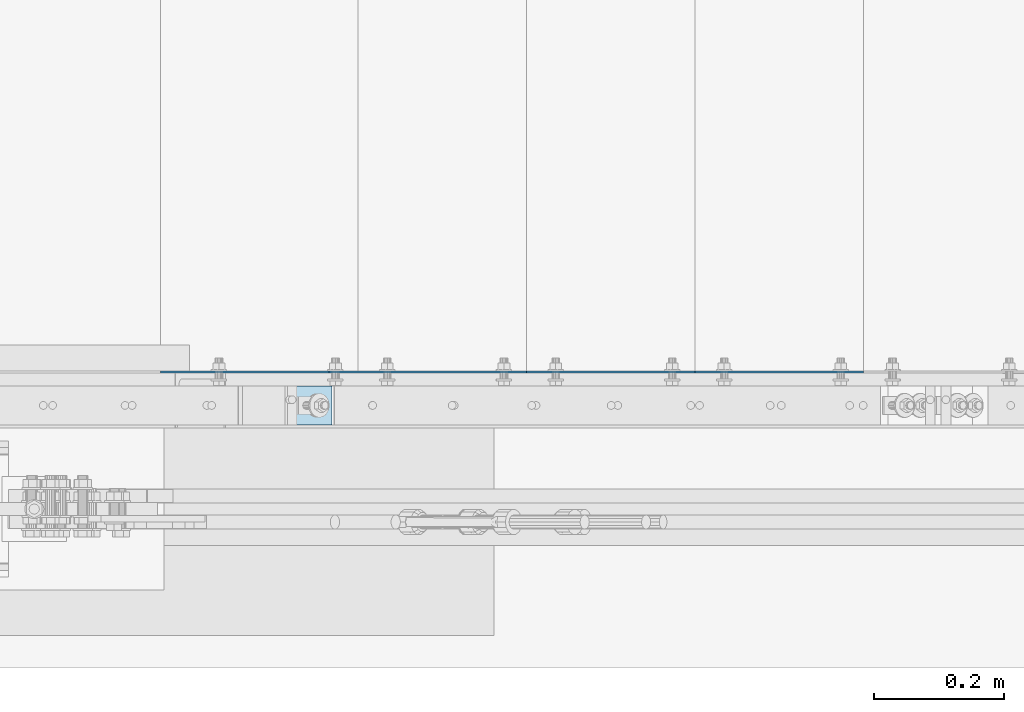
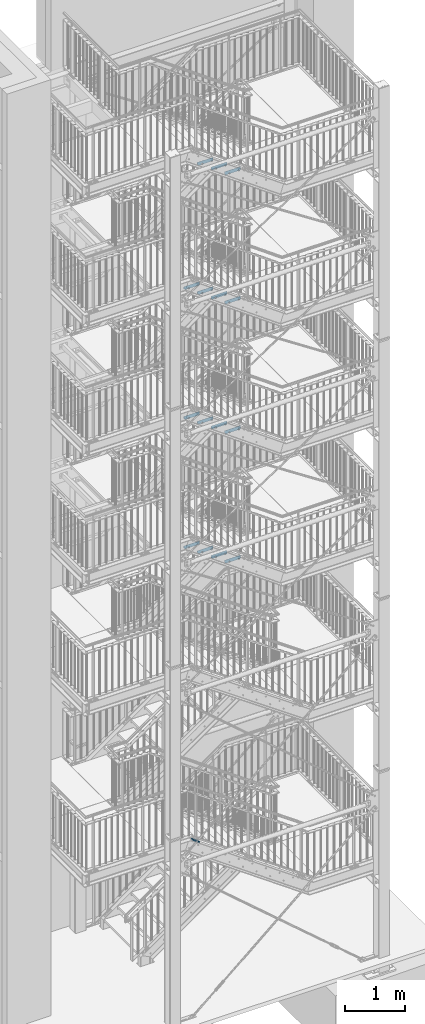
# One storey, part 169 of 831: 16 plates, 32 openings.
"""IFC2X3 building model written with IfcOpenShell, lengths in millimetres."""

from ifc_helpers import new_model, entity, si_unit, converted_unit, point, frame, frame_2d, origin, origin_with_axes, origin_2d_with_axis, place, context, project, spatial, polyline, circle_curve, line_curve, trimmed, segment, composite_curve, circle, outline, extrude, material, layer, layer_set, element, save


model = new_model("IFC2X3")

# Units and contexts
model_context = context("Model", 3, precision=1e-09, world=origin_with_axes())
ifc_project = project(units=[si_unit("LENGTHUNIT", "METRE", prefix="MILLI"), si_unit("AREAUNIT", "SQUARE_METRE"), si_unit("VOLUMEUNIT", "CUBIC_METRE"), converted_unit("PLANEANGLEUNIT", "DEGREE", entity("IfcPlaneAngleMeasure", 0.01745329), si_unit("PLANEANGLEUNIT", "RADIAN"), dimensions=[0, 0, 0, 0, 0, 0, 0])], contexts=[model_context])

# Site, building, storey
site_placement = place(None, origin_with_axes())
site = spatial("IfcSite", under=ifc_project, at=site_placement, Name="Site", CompositionType="ELEMENT")
building_placement = place(site_placement, origin_with_axes())
building = spatial("IfcBuilding", under=site, at=building_placement, Name="Struktur 1", CompositionType="ELEMENT")
storey_placement = place(building_placement, origin_with_axes())
storey = spatial("IfcBuildingStorey", under=building, at=storey_placement, Name="Default Storey", CompositionType="ELEMENT", Elevation=0.0)

# Plate, openings
ifc_material = material(Name="S235JR")
ifc_layer_1 = layer(ifc_material, 20.0)
ifc_layer_set_1 = layer_set([ifc_layer_1], Name="S235JR")
plate_1_placement = place(None, frame((5314.268058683, 4496.736971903, 3831.785480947), z_axis=(0.579973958, 0.0, 0.814635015), x_axis=(0.814635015, 0.0, -0.579973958)))
plate_1 = element("IfcPlate", 1, at=plate_1_placement, inside=storey, material=ifc_layer_set_1, Name="Plate#510", ObjectType="Plate#510", context=model_context, shape_type="SweptSolid", body=[
    extrude(outline(polyline([(0.0, 0.0), (160.0, 0.0), (160.0, 60.0), (0.0, 60.0), (0.0, 0.0)])), origin_with_axes(), (0.0, 0.0, 1.0), 20.0),
])
opening_1_placement = place(plate_1_placement, frame((38.0, 37.001, 20.5), z_axis=(0.0, 0.0, 1.0), x_axis=(-1.0, 0.0, 0.0)))
element("IfcOpeningElement", 2, at=opening_1_placement, cuts=plate_1, ObjectType="Opening", context=model_context, shape_type="SweptSolid", body=[
    extrude(outline(composite_curve([segment(trimmed(line_curve((0.0, 0.0), (1.0, 0.0), 16.0), [point((0.0, 0.0))], [point((16.0, 0.0))], True, "CARTESIAN"), True, "CONTINUOUS"), segment(trimmed(circle_curve(frame_2d((16.0, 7.001), x_axis=(1.0, 0.0)), 7.001), [point((16.0, 0.0))], [point((16.0, 14.002))], True, "CARTESIAN"), True, "CONTINUOUS"), segment(trimmed(line_curve((16.0, 14.002), (-1.0, 0.0), 16.0), [point((16.0, 14.002))], [point((0.0, 14.002))], True, "CARTESIAN"), True, "CONTINUOUS"), segment(trimmed(circle_curve(frame_2d((0.0, 7.001), x_axis=(1.0, 0.0)), 7.001), [point((0.0, 14.002))], [point((0.0, 0.0))], True, "CARTESIAN"), True, "CONTINUOUS")], self_intersect=False)), origin(), (0.0, 0.0, -1.0), 21.0),
])
opening_2_placement = place(plate_1_placement, frame((138.0, 37.001, 20.5), z_axis=(0.0, 0.0, 1.0), x_axis=(-1.0, 0.0, 0.0)))
element("IfcOpeningElement", 3, at=opening_2_placement, cuts=plate_1, ObjectType="Opening", context=model_context, shape_type="SweptSolid", body=[
    extrude(outline(composite_curve([segment(trimmed(line_curve((0.0, 0.0), (1.0, 0.0), 16.0), [point((0.0, 0.0))], [point((16.0, 0.0))], True, "CARTESIAN"), True, "CONTINUOUS"), segment(trimmed(circle_curve(frame_2d((16.0, 7.001), x_axis=(1.0, 0.0)), 7.001), [point((16.0, 0.0))], [point((16.0, 14.002))], True, "CARTESIAN"), True, "CONTINUOUS"), segment(trimmed(line_curve((16.0, 14.002), (-1.0, 0.0), 16.0), [point((16.0, 14.002))], [point((0.0, 14.002))], True, "CARTESIAN"), True, "CONTINUOUS"), segment(trimmed(circle_curve(frame_2d((0.0, 7.001), x_axis=(1.0, 0.0)), 7.001), [point((0.0, 14.002))], [point((0.0, 0.0))], True, "CARTESIAN"), True, "CONTINUOUS")], self_intersect=False)), origin(), (0.0, 0.0, -1.0), 21.0),
])

ifc_layer_2 = layer(ifc_material, 3.0)
ifc_layer_set_2 = layer_set([ifc_layer_2], Name="S235JR")
plate_2_placement = place(None, frame((6276.713402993, 4576.736971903, 9240.0), z_axis=(0.0, 1.0, 0.0), x_axis=(0.0, 0.0, -1.0)))
plate_2 = element("IfcPlate", 4, at=plate_2_placement, inside=storey, material=ifc_layer_set_2, Name="Grate_Step#16", ObjectType="Grate_Step#16", context=model_context, shape_type="SweptSolid", body=[
    extrude(outline(polyline([(0.0, 0.0), (70.0, 0.0), (70.0, 275.0), (40.0, 305.0), (0.0, 305.0), (0.0, 0.0)])), origin_with_axes(), (0.0, 0.0, 1.0), 3.0),
])
opening_3_placement = place(plate_2_placement, frame((55.0, 35.0, 3.5), z_axis=(0.0, 0.0, -1.0), x_axis=(0.0, 1.0, 0.0)))
element("IfcOpeningElement", 5, at=opening_3_placement, cuts=plate_2, ObjectType="Opening", context=model_context, shape_type="SweptSolid", body=[
    extrude(circle(Radius=7.001, at=origin_2d_with_axis()), origin(), (0.0, 0.0, 1.0), 4.0),
])
opening_4_placement = place(plate_2_placement, frame((55.0, 215.0, 3.5), z_axis=(0.0, 0.0, -1.0), x_axis=(0.0, 1.0, 0.0)))
element("IfcOpeningElement", 6, at=opening_4_placement, cuts=plate_2, ObjectType="Opening", context=model_context, shape_type="SweptSolid", body=[
    extrude(outline(composite_curve([segment(trimmed(line_curve((-9.5, -7.001), (1.0, 0.0), 19.0), [point((-9.5, -7.001))], [point((9.5, -7.001))], True, "CARTESIAN"), True, "CONTINUOUS"), segment(trimmed(circle_curve(frame_2d((9.5, 0.0), x_axis=(1.0, 0.0)), 7.001), [point((9.5, -7.001))], [point((9.5, 7.001))], True, "CARTESIAN"), True, "CONTINUOUS"), segment(trimmed(line_curve((9.5, 7.001), (-1.0, 0.0), 19.0), [point((9.5, 7.001))], [point((-9.5, 7.001))], True, "CARTESIAN"), True, "CONTINUOUS"), segment(trimmed(circle_curve(frame_2d((-9.5, 0.0), x_axis=(1.0, 0.0)), 7.001), [point((-9.5, 7.001))], [point((-9.5, -7.001))], True, "CARTESIAN"), True, "CONTINUOUS")], self_intersect=False)), origin(), (0.0, 0.0, 1.0), 4.0),
])

plate_3_placement = place(None, frame((6016.713402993, 4576.736971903, 9428.0), z_axis=(0.0, 1.0, 0.0), x_axis=(0.0, 0.0, -1.0)))
plate_3 = element("IfcPlate", 7, at=plate_3_placement, inside=storey, material=ifc_layer_set_2, Name="Grate_Step#23", ObjectType="Grate_Step#23", context=model_context, shape_type="SweptSolid", body=[
    extrude(outline(polyline([(0.0, 0.0), (70.0, 0.0), (70.0, 275.0), (40.0, 305.0), (0.0, 305.0), (0.0, 0.0)])), origin_with_axes(), (0.0, 0.0, 1.0), 3.0),
])
opening_5_placement = place(plate_3_placement, frame((55.0, 215.0, 3.5), z_axis=(0.0, 0.0, -1.0), x_axis=(0.0, 1.0, 0.0)))
element("IfcOpeningElement", 8, at=opening_5_placement, cuts=plate_3, ObjectType="Opening", context=model_context, shape_type="SweptSolid", body=[
    extrude(outline(composite_curve([segment(trimmed(line_curve((-9.5, -7.001), (1.0, 0.0), 19.0), [point((-9.5, -7.001))], [point((9.5, -7.001))], True, "CARTESIAN"), True, "CONTINUOUS"), segment(trimmed(circle_curve(frame_2d((9.5, 0.0), x_axis=(1.0, 0.0)), 7.001), [point((9.5, -7.001))], [point((9.5, 7.001))], True, "CARTESIAN"), True, "CONTINUOUS"), segment(trimmed(line_curve((9.5, 7.001), (-1.0, 0.0), 19.0), [point((9.5, 7.001))], [point((-9.5, 7.001))], True, "CARTESIAN"), True, "CONTINUOUS"), segment(trimmed(circle_curve(frame_2d((-9.5, 0.0), x_axis=(1.0, 0.0)), 7.001), [point((-9.5, 7.001))], [point((-9.5, -7.001))], True, "CARTESIAN"), True, "CONTINUOUS")], self_intersect=False)), origin(), (0.0, 0.0, 1.0), 4.0),
])
opening_6_placement = place(plate_3_placement, frame((55.0, 35.0, 3.5), z_axis=(0.0, 0.0, -1.0), x_axis=(0.0, 1.0, 0.0)))
element("IfcOpeningElement", 9, at=opening_6_placement, cuts=plate_3, ObjectType="Opening", context=model_context, shape_type="SweptSolid", body=[
    extrude(circle(Radius=7.001, at=origin_2d_with_axis()), origin(), (0.0, 0.0, 1.0), 4.0),
])

plate_4_placement = place(None, frame((5756.713402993, 4576.736971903, 9616.0), z_axis=(0.0, 1.0, 0.0), x_axis=(0.0, 0.0, -1.0)))
plate_4 = element("IfcPlate", 10, at=plate_4_placement, inside=storey, material=ifc_layer_set_2, Name="Grate_Step#30", ObjectType="Grate_Step#30", context=model_context, shape_type="SweptSolid", body=[
    extrude(outline(polyline([(0.0, 0.0), (70.0, 0.0), (70.0, 275.0), (40.0, 305.0), (0.0, 305.0), (0.0, 0.0)])), origin_with_axes(), (0.0, 0.0, 1.0), 3.0),
])
opening_7_placement = place(plate_4_placement, frame((55.0, 35.0, 3.5), z_axis=(0.0, 0.0, -1.0), x_axis=(0.0, 1.0, 0.0)))
element("IfcOpeningElement", 11, at=opening_7_placement, cuts=plate_4, ObjectType="Opening", context=model_context, shape_type="SweptSolid", body=[
    extrude(circle(Radius=7.001, at=origin_2d_with_axis()), origin(), (0.0, 0.0, 1.0), 4.0),
])
opening_8_placement = place(plate_4_placement, frame((55.0, 215.0, 3.5), z_axis=(0.0, 0.0, -1.0), x_axis=(0.0, 1.0, 0.0)))
element("IfcOpeningElement", 12, at=opening_8_placement, cuts=plate_4, ObjectType="Opening", context=model_context, shape_type="SweptSolid", body=[
    extrude(outline(composite_curve([segment(trimmed(line_curve((-9.5, -7.001), (1.0, 0.0), 19.0), [point((-9.5, -7.001))], [point((9.5, -7.001))], True, "CARTESIAN"), True, "CONTINUOUS"), segment(trimmed(circle_curve(frame_2d((9.5, 0.0), x_axis=(1.0, 0.0)), 7.001), [point((9.5, -7.001))], [point((9.5, 7.001))], True, "CARTESIAN"), True, "CONTINUOUS"), segment(trimmed(line_curve((9.5, 7.001), (-1.0, 0.0), 19.0), [point((9.5, 7.001))], [point((-9.5, 7.001))], True, "CARTESIAN"), True, "CONTINUOUS"), segment(trimmed(circle_curve(frame_2d((-9.5, 0.0), x_axis=(1.0, 0.0)), 7.001), [point((-9.5, 7.001))], [point((-9.5, -7.001))], True, "CARTESIAN"), True, "CONTINUOUS")], self_intersect=False)), origin(), (0.0, 0.0, 1.0), 4.0),
])

plate_5_placement = place(None, frame((5496.713402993, 4576.736971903, 9804.0), z_axis=(0.0, 1.0, 0.0), x_axis=(0.0, 0.0, -1.0)))
plate_5 = element("IfcPlate", 13, at=plate_5_placement, inside=storey, material=ifc_layer_set_2, Name="Grate_Step#37", ObjectType="Grate_Step#37", context=model_context, shape_type="SweptSolid", body=[
    extrude(outline(polyline([(0.0, 0.0), (70.0, 0.0), (70.0, 275.0), (40.0, 305.0), (0.0, 305.0), (0.0, 0.0)])), origin_with_axes(), (0.0, 0.0, 1.0), 3.0),
])
opening_9_placement = place(plate_5_placement, frame((55.0, 35.0, 3.5), z_axis=(0.0, 0.0, -1.0), x_axis=(0.0, 1.0, 0.0)))
element("IfcOpeningElement", 14, at=opening_9_placement, cuts=plate_5, ObjectType="Opening", context=model_context, shape_type="SweptSolid", body=[
    extrude(circle(Radius=7.001, at=origin_2d_with_axis()), origin(), (0.0, 0.0, 1.0), 4.0),
])
opening_10_placement = place(plate_5_placement, frame((55.0, 215.0, 3.5), z_axis=(0.0, 0.0, -1.0), x_axis=(0.0, 1.0, 0.0)))
element("IfcOpeningElement", 15, at=opening_10_placement, cuts=plate_5, ObjectType="Opening", context=model_context, shape_type="SweptSolid", body=[
    extrude(outline(composite_curve([segment(trimmed(line_curve((-9.5, -7.001), (1.0, 0.0), 19.0), [point((-9.5, -7.001))], [point((9.5, -7.001))], True, "CARTESIAN"), True, "CONTINUOUS"), segment(trimmed(circle_curve(frame_2d((9.5, 0.0), x_axis=(1.0, 0.0)), 7.001), [point((9.5, -7.001))], [point((9.5, 7.001))], True, "CARTESIAN"), True, "CONTINUOUS"), segment(trimmed(line_curve((9.5, 7.001), (-1.0, 0.0), 19.0), [point((9.5, 7.001))], [point((-9.5, 7.001))], True, "CARTESIAN"), True, "CONTINUOUS"), segment(trimmed(circle_curve(frame_2d((-9.5, 0.0), x_axis=(1.0, 0.0)), 7.001), [point((-9.5, 7.001))], [point((-9.5, -7.001))], True, "CARTESIAN"), True, "CONTINUOUS")], self_intersect=False)), origin(), (0.0, 0.0, 1.0), 4.0),
])

plate_6_placement = place(None, frame((6276.713402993, 4576.736971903, 11868.4285716), z_axis=(0.0, 1.0, 0.0), x_axis=(0.0, 0.0, -1.0)))
plate_6 = element("IfcPlate", 16, at=plate_6_placement, inside=storey, material=ifc_layer_set_2, Name="Grate_Step#16", ObjectType="Grate_Step#16", context=model_context, shape_type="SweptSolid", body=[
    extrude(outline(polyline([(0.0, 0.0), (70.0, 0.0), (70.0, 275.0), (40.0, 305.0), (0.0, 305.0), (0.0, 0.0)])), origin_with_axes(), (0.0, 0.0, 1.0), 3.0),
])
opening_11_placement = place(plate_6_placement, frame((55.0, 35.0, 3.5), z_axis=(0.0, 0.0, -1.0), x_axis=(0.0, 1.0, 0.0)))
element("IfcOpeningElement", 17, at=opening_11_placement, cuts=plate_6, ObjectType="Opening", context=model_context, shape_type="SweptSolid", body=[
    extrude(circle(Radius=7.001, at=origin_2d_with_axis()), origin(), (0.0, 0.0, 1.0), 4.0),
])
opening_12_placement = place(plate_6_placement, frame((55.0, 215.0, 3.5), z_axis=(0.0, 0.0, -1.0), x_axis=(0.0, 1.0, 0.0)))
element("IfcOpeningElement", 18, at=opening_12_placement, cuts=plate_6, ObjectType="Opening", context=model_context, shape_type="SweptSolid", body=[
    extrude(outline(composite_curve([segment(trimmed(line_curve((-9.5, -7.001), (1.0, 0.0), 19.0), [point((-9.5, -7.001))], [point((9.5, -7.001))], True, "CARTESIAN"), True, "CONTINUOUS"), segment(trimmed(circle_curve(frame_2d((9.5, 0.0), x_axis=(1.0, 0.0)), 7.001), [point((9.5, -7.001))], [point((9.5, 7.001))], True, "CARTESIAN"), True, "CONTINUOUS"), segment(trimmed(line_curve((9.5, 7.001), (-1.0, 0.0), 19.0), [point((9.5, 7.001))], [point((-9.5, 7.001))], True, "CARTESIAN"), True, "CONTINUOUS"), segment(trimmed(circle_curve(frame_2d((-9.5, 0.0), x_axis=(1.0, 0.0)), 7.001), [point((-9.5, 7.001))], [point((-9.5, -7.001))], True, "CARTESIAN"), True, "CONTINUOUS")], self_intersect=False)), origin(), (0.0, 0.0, 1.0), 4.0),
])

plate_7_placement = place(None, frame((6016.713402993, 4576.736971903, 12056.0714287), z_axis=(0.0, 1.0, 0.0), x_axis=(0.0, 0.0, -1.0)))
plate_7 = element("IfcPlate", 19, at=plate_7_placement, inside=storey, material=ifc_layer_set_2, Name="Grate_Step#23", ObjectType="Grate_Step#23", context=model_context, shape_type="SweptSolid", body=[
    extrude(outline(polyline([(0.0, 0.0), (70.0, 0.0), (70.0, 275.0), (40.0, 305.0), (0.0, 305.0), (0.0, 0.0)])), origin_with_axes(), (0.0, 0.0, 1.0), 3.0),
])
opening_13_placement = place(plate_7_placement, frame((55.0, 215.0, 3.5), z_axis=(0.0, 0.0, -1.0), x_axis=(0.0, 1.0, 0.0)))
element("IfcOpeningElement", 20, at=opening_13_placement, cuts=plate_7, ObjectType="Opening", context=model_context, shape_type="SweptSolid", body=[
    extrude(outline(composite_curve([segment(trimmed(line_curve((-9.5, -7.001), (1.0, 0.0), 19.0), [point((-9.5, -7.001))], [point((9.5, -7.001))], True, "CARTESIAN"), True, "CONTINUOUS"), segment(trimmed(circle_curve(frame_2d((9.5, 0.0), x_axis=(1.0, 0.0)), 7.001), [point((9.5, -7.001))], [point((9.5, 7.001))], True, "CARTESIAN"), True, "CONTINUOUS"), segment(trimmed(line_curve((9.5, 7.001), (-1.0, 0.0), 19.0), [point((9.5, 7.001))], [point((-9.5, 7.001))], True, "CARTESIAN"), True, "CONTINUOUS"), segment(trimmed(circle_curve(frame_2d((-9.5, 0.0), x_axis=(1.0, 0.0)), 7.001), [point((-9.5, 7.001))], [point((-9.5, -7.001))], True, "CARTESIAN"), True, "CONTINUOUS")], self_intersect=False)), origin(), (0.0, 0.0, 1.0), 4.0),
])
opening_14_placement = place(plate_7_placement, frame((55.0, 35.0, 3.5), z_axis=(0.0, 0.0, -1.0), x_axis=(0.0, 1.0, 0.0)))
element("IfcOpeningElement", 21, at=opening_14_placement, cuts=plate_7, ObjectType="Opening", context=model_context, shape_type="SweptSolid", body=[
    extrude(circle(Radius=7.001, at=origin_2d_with_axis()), origin(), (0.0, 0.0, 1.0), 4.0),
])

plate_8_placement = place(None, frame((5756.713402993, 4576.736971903, 12243.7142858), z_axis=(0.0, 1.0, 0.0), x_axis=(0.0, 0.0, -1.0)))
plate_8 = element("IfcPlate", 22, at=plate_8_placement, inside=storey, material=ifc_layer_set_2, Name="Grate_Step#30", ObjectType="Grate_Step#30", context=model_context, shape_type="SweptSolid", body=[
    extrude(outline(polyline([(0.0, 0.0), (70.0, 0.0), (70.0, 275.0), (40.0, 305.0), (0.0, 305.0), (0.0, 0.0)])), origin_with_axes(), (0.0, 0.0, 1.0), 3.0),
])
opening_15_placement = place(plate_8_placement, frame((55.0, 35.0, 3.5), z_axis=(0.0, 0.0, -1.0), x_axis=(0.0, 1.0, 0.0)))
element("IfcOpeningElement", 23, at=opening_15_placement, cuts=plate_8, ObjectType="Opening", context=model_context, shape_type="SweptSolid", body=[
    extrude(circle(Radius=7.001, at=origin_2d_with_axis()), origin(), (0.0, 0.0, 1.0), 4.0),
])
opening_16_placement = place(plate_8_placement, frame((55.0, 215.0, 3.5), z_axis=(0.0, 0.0, -1.0), x_axis=(0.0, 1.0, 0.0)))
element("IfcOpeningElement", 24, at=opening_16_placement, cuts=plate_8, ObjectType="Opening", context=model_context, shape_type="SweptSolid", body=[
    extrude(outline(composite_curve([segment(trimmed(line_curve((-9.5, -7.001), (1.0, 0.0), 19.0), [point((-9.5, -7.001))], [point((9.5, -7.001))], True, "CARTESIAN"), True, "CONTINUOUS"), segment(trimmed(circle_curve(frame_2d((9.5, 0.0), x_axis=(1.0, 0.0)), 7.001), [point((9.5, -7.001))], [point((9.5, 7.001))], True, "CARTESIAN"), True, "CONTINUOUS"), segment(trimmed(line_curve((9.5, 7.001), (-1.0, 0.0), 19.0), [point((9.5, 7.001))], [point((-9.5, 7.001))], True, "CARTESIAN"), True, "CONTINUOUS"), segment(trimmed(circle_curve(frame_2d((-9.5, 0.0), x_axis=(1.0, 0.0)), 7.001), [point((-9.5, 7.001))], [point((-9.5, -7.001))], True, "CARTESIAN"), True, "CONTINUOUS")], self_intersect=False)), origin(), (0.0, 0.0, 1.0), 4.0),
])

plate_9_placement = place(None, frame((5496.713402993, 4576.736971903, 12431.3571429), z_axis=(0.0, 1.0, 0.0), x_axis=(0.0, 0.0, -1.0)))
plate_9 = element("IfcPlate", 25, at=plate_9_placement, inside=storey, material=ifc_layer_set_2, Name="Grate_Step#37", ObjectType="Grate_Step#37", context=model_context, shape_type="SweptSolid", body=[
    extrude(outline(polyline([(0.0, 0.0), (70.0, 0.0), (70.0, 275.0), (40.0, 305.0), (0.0, 305.0), (0.0, 0.0)])), origin_with_axes(), (0.0, 0.0, 1.0), 3.0),
])
opening_17_placement = place(plate_9_placement, frame((55.0, 35.0, 3.5), z_axis=(0.0, 0.0, -1.0), x_axis=(0.0, 1.0, 0.0)))
element("IfcOpeningElement", 26, at=opening_17_placement, cuts=plate_9, ObjectType="Opening", context=model_context, shape_type="SweptSolid", body=[
    extrude(circle(Radius=7.001, at=origin_2d_with_axis()), origin(), (0.0, 0.0, 1.0), 4.0),
])
opening_18_placement = place(plate_9_placement, frame((55.0, 215.0, 3.5), z_axis=(0.0, 0.0, -1.0), x_axis=(0.0, 1.0, 0.0)))
element("IfcOpeningElement", 27, at=opening_18_placement, cuts=plate_9, ObjectType="Opening", context=model_context, shape_type="SweptSolid", body=[
    extrude(outline(composite_curve([segment(trimmed(line_curve((-9.5, -7.001), (1.0, 0.0), 19.0), [point((-9.5, -7.001))], [point((9.5, -7.001))], True, "CARTESIAN"), True, "CONTINUOUS"), segment(trimmed(circle_curve(frame_2d((9.5, 0.0), x_axis=(1.0, 0.0)), 7.001), [point((9.5, -7.001))], [point((9.5, 7.001))], True, "CARTESIAN"), True, "CONTINUOUS"), segment(trimmed(line_curve((9.5, 7.001), (-1.0, 0.0), 19.0), [point((9.5, 7.001))], [point((-9.5, 7.001))], True, "CARTESIAN"), True, "CONTINUOUS"), segment(trimmed(circle_curve(frame_2d((-9.5, 0.0), x_axis=(1.0, 0.0)), 7.001), [point((-9.5, 7.001))], [point((-9.5, -7.001))], True, "CARTESIAN"), True, "CONTINUOUS")], self_intersect=False)), origin(), (0.0, 0.0, 1.0), 4.0),
])

plate_10_placement = place(None, frame((6276.713402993, 4576.736971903, 14501.1428572), z_axis=(0.0, 1.0, 0.0), x_axis=(0.0, 0.0, -1.0)))
plate_10 = element("IfcPlate", 28, at=plate_10_placement, inside=storey, material=ifc_layer_set_2, Name="Grate_Step#16", ObjectType="Grate_Step#16", context=model_context, shape_type="SweptSolid", body=[
    extrude(outline(polyline([(0.0, 0.0), (70.0, 0.0), (70.0, 275.0), (40.0, 305.0), (0.0, 305.0), (0.0, 0.0)])), origin_with_axes(), (0.0, 0.0, 1.0), 3.0),
])
opening_19_placement = place(plate_10_placement, frame((55.0, 215.0, 3.5), z_axis=(0.0, 0.0, -1.0), x_axis=(0.0, 1.0, 0.0)))
element("IfcOpeningElement", 29, at=opening_19_placement, cuts=plate_10, ObjectType="Opening", context=model_context, shape_type="SweptSolid", body=[
    extrude(outline(composite_curve([segment(trimmed(line_curve((-9.5, -7.001), (1.0, 0.0), 19.0), [point((-9.5, -7.001))], [point((9.5, -7.001))], True, "CARTESIAN"), True, "CONTINUOUS"), segment(trimmed(circle_curve(frame_2d((9.5, 0.0), x_axis=(1.0, 0.0)), 7.001), [point((9.5, -7.001))], [point((9.5, 7.001))], True, "CARTESIAN"), True, "CONTINUOUS"), segment(trimmed(line_curve((9.5, 7.001), (-1.0, 0.0), 19.0), [point((9.5, 7.001))], [point((-9.5, 7.001))], True, "CARTESIAN"), True, "CONTINUOUS"), segment(trimmed(circle_curve(frame_2d((-9.5, 0.0), x_axis=(1.0, 0.0)), 7.001), [point((-9.5, 7.001))], [point((-9.5, -7.001))], True, "CARTESIAN"), True, "CONTINUOUS")], self_intersect=False)), origin(), (0.0, 0.0, 1.0), 4.0),
])
opening_20_placement = place(plate_10_placement, frame((55.0, 35.0, 3.5), z_axis=(0.0, 0.0, -1.0), x_axis=(0.0, 1.0, 0.0)))
element("IfcOpeningElement", 30, at=opening_20_placement, cuts=plate_10, ObjectType="Opening", context=model_context, shape_type="SweptSolid", body=[
    extrude(circle(Radius=7.001, at=origin_2d_with_axis()), origin(), (0.0, 0.0, 1.0), 4.0),
])

plate_11_placement = place(None, frame((6016.713402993, 4576.736971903, 14689.3571429), z_axis=(0.0, 1.0, 0.0), x_axis=(0.0, 0.0, -1.0)))
plate_11 = element("IfcPlate", 31, at=plate_11_placement, inside=storey, material=ifc_layer_set_2, Name="Grate_Step#23", ObjectType="Grate_Step#23", context=model_context, shape_type="SweptSolid", body=[
    extrude(outline(polyline([(0.0, 0.0), (70.0, 0.0), (70.0, 275.0), (40.0, 305.0), (0.0, 305.0), (0.0, 0.0)])), origin_with_axes(), (0.0, 0.0, 1.0), 3.0),
])
opening_21_placement = place(plate_11_placement, frame((55.0, 35.0, 3.5), z_axis=(0.0, 0.0, -1.0), x_axis=(0.0, 1.0, 0.0)))
element("IfcOpeningElement", 32, at=opening_21_placement, cuts=plate_11, ObjectType="Opening", context=model_context, shape_type="SweptSolid", body=[
    extrude(circle(Radius=7.001, at=origin_2d_with_axis()), origin(), (0.0, 0.0, 1.0), 4.0),
])
opening_22_placement = place(plate_11_placement, frame((55.0, 215.0, 3.5), z_axis=(0.0, 0.0, -1.0), x_axis=(0.0, 1.0, 0.0)))
element("IfcOpeningElement", 33, at=opening_22_placement, cuts=plate_11, ObjectType="Opening", context=model_context, shape_type="SweptSolid", body=[
    extrude(outline(composite_curve([segment(trimmed(line_curve((-9.5, -7.001), (1.0, 0.0), 19.0), [point((-9.5, -7.001))], [point((9.5, -7.001))], True, "CARTESIAN"), True, "CONTINUOUS"), segment(trimmed(circle_curve(frame_2d((9.5, 0.0), x_axis=(1.0, 0.0)), 7.001), [point((9.5, -7.001))], [point((9.5, 7.001))], True, "CARTESIAN"), True, "CONTINUOUS"), segment(trimmed(line_curve((9.5, 7.001), (-1.0, 0.0), 19.0), [point((9.5, 7.001))], [point((-9.5, 7.001))], True, "CARTESIAN"), True, "CONTINUOUS"), segment(trimmed(circle_curve(frame_2d((-9.5, 0.0), x_axis=(1.0, 0.0)), 7.001), [point((-9.5, 7.001))], [point((-9.5, -7.001))], True, "CARTESIAN"), True, "CONTINUOUS")], self_intersect=False)), origin(), (0.0, 0.0, 1.0), 4.0),
])

plate_12_placement = place(None, frame((5756.713402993, 4576.736971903, 14877.5714286), z_axis=(0.0, 1.0, 0.0), x_axis=(0.0, 0.0, -1.0)))
plate_12 = element("IfcPlate", 34, at=plate_12_placement, inside=storey, material=ifc_layer_set_2, Name="Grate_Step#30", ObjectType="Grate_Step#30", context=model_context, shape_type="SweptSolid", body=[
    extrude(outline(polyline([(0.0, 0.0), (70.0, 0.0), (70.0, 275.0), (40.0, 305.0), (0.0, 305.0), (0.0, 0.0)])), origin_with_axes(), (0.0, 0.0, 1.0), 3.0),
])
opening_23_placement = place(plate_12_placement, frame((55.0, 35.0, 3.5), z_axis=(0.0, 0.0, -1.0), x_axis=(0.0, 1.0, 0.0)))
element("IfcOpeningElement", 35, at=opening_23_placement, cuts=plate_12, ObjectType="Opening", context=model_context, shape_type="SweptSolid", body=[
    extrude(circle(Radius=7.001, at=origin_2d_with_axis()), origin(), (0.0, 0.0, 1.0), 4.0),
])
opening_24_placement = place(plate_12_placement, frame((55.0, 215.0, 3.5), z_axis=(0.0, 0.0, -1.0), x_axis=(0.0, 1.0, 0.0)))
element("IfcOpeningElement", 36, at=opening_24_placement, cuts=plate_12, ObjectType="Opening", context=model_context, shape_type="SweptSolid", body=[
    extrude(outline(composite_curve([segment(trimmed(line_curve((-9.5, -7.001), (1.0, 0.0), 19.0), [point((-9.5, -7.001))], [point((9.5, -7.001))], True, "CARTESIAN"), True, "CONTINUOUS"), segment(trimmed(circle_curve(frame_2d((9.5, 0.0), x_axis=(1.0, 0.0)), 7.001), [point((9.5, -7.001))], [point((9.5, 7.001))], True, "CARTESIAN"), True, "CONTINUOUS"), segment(trimmed(line_curve((9.5, 7.001), (-1.0, 0.0), 19.0), [point((9.5, 7.001))], [point((-9.5, 7.001))], True, "CARTESIAN"), True, "CONTINUOUS"), segment(trimmed(circle_curve(frame_2d((-9.5, 0.0), x_axis=(1.0, 0.0)), 7.001), [point((-9.5, 7.001))], [point((-9.5, -7.001))], True, "CARTESIAN"), True, "CONTINUOUS")], self_intersect=False)), origin(), (0.0, 0.0, 1.0), 4.0),
])

plate_13_placement = place(None, frame((5496.713402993, 4576.736971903, 15065.7857143), z_axis=(0.0, 1.0, 0.0), x_axis=(0.0, 0.0, -1.0)))
plate_13 = element("IfcPlate", 37, at=plate_13_placement, inside=storey, material=ifc_layer_set_2, Name="Grate_Step#37", ObjectType="Grate_Step#37", context=model_context, shape_type="SweptSolid", body=[
    extrude(outline(polyline([(0.0, 0.0), (70.0, 0.0), (70.0, 275.0), (40.0, 305.0), (0.0, 305.0), (0.0, 0.0)])), origin_with_axes(), (0.0, 0.0, 1.0), 3.0),
])
opening_25_placement = place(plate_13_placement, frame((55.0, 35.0, 3.5), z_axis=(0.0, 0.0, -1.0), x_axis=(0.0, 1.0, 0.0)))
element("IfcOpeningElement", 38, at=opening_25_placement, cuts=plate_13, ObjectType="Opening", context=model_context, shape_type="SweptSolid", body=[
    extrude(circle(Radius=7.001, at=origin_2d_with_axis()), origin(), (0.0, 0.0, 1.0), 4.0),
])
opening_26_placement = place(plate_13_placement, frame((55.0, 215.0, 3.5), z_axis=(0.0, 0.0, -1.0), x_axis=(0.0, 1.0, 0.0)))
element("IfcOpeningElement", 39, at=opening_26_placement, cuts=plate_13, ObjectType="Opening", context=model_context, shape_type="SweptSolid", body=[
    extrude(outline(composite_curve([segment(trimmed(line_curve((-9.5, -7.001), (1.0, 0.0), 19.0), [point((-9.5, -7.001))], [point((9.5, -7.001))], True, "CARTESIAN"), True, "CONTINUOUS"), segment(trimmed(circle_curve(frame_2d((9.5, 0.0), x_axis=(1.0, 0.0)), 7.001), [point((9.5, -7.001))], [point((9.5, 7.001))], True, "CARTESIAN"), True, "CONTINUOUS"), segment(trimmed(line_curve((9.5, 7.001), (-1.0, 0.0), 19.0), [point((9.5, 7.001))], [point((-9.5, 7.001))], True, "CARTESIAN"), True, "CONTINUOUS"), segment(trimmed(circle_curve(frame_2d((-9.5, 0.0), x_axis=(1.0, 0.0)), 7.001), [point((-9.5, 7.001))], [point((-9.5, -7.001))], True, "CARTESIAN"), True, "CONTINUOUS")], self_intersect=False)), origin(), (0.0, 0.0, 1.0), 4.0),
])

plate_14_placement = place(None, frame((6276.713402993, 4576.736971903, 17125.4285716), z_axis=(0.0, 1.0, 0.0), x_axis=(0.0, 0.0, -1.0)))
plate_14 = element("IfcPlate", 40, at=plate_14_placement, inside=storey, material=ifc_layer_set_2, Name="Grate_Step#16", ObjectType="Grate_Step#16", context=model_context, shape_type="SweptSolid", body=[
    extrude(outline(polyline([(0.0, 0.0), (70.0, 0.0), (70.0, 275.0), (40.0, 305.0), (0.0, 305.0), (0.0, 0.0)])), origin_with_axes(), (0.0, 0.0, 1.0), 3.0),
])
opening_27_placement = place(plate_14_placement, frame((55.0, 35.0, 3.5), z_axis=(0.0, 0.0, -1.0), x_axis=(0.0, 1.0, 0.0)))
element("IfcOpeningElement", 41, at=opening_27_placement, cuts=plate_14, ObjectType="Opening", context=model_context, shape_type="SweptSolid", body=[
    extrude(circle(Radius=7.001, at=origin_2d_with_axis()), origin(), (0.0, 0.0, 1.0), 4.0),
])
opening_28_placement = place(plate_14_placement, frame((55.0, 215.0, 3.5), z_axis=(0.0, 0.0, -1.0), x_axis=(0.0, 1.0, 0.0)))
element("IfcOpeningElement", 42, at=opening_28_placement, cuts=plate_14, ObjectType="Opening", context=model_context, shape_type="SweptSolid", body=[
    extrude(outline(composite_curve([segment(trimmed(line_curve((-9.5, -7.001), (1.0, 0.0), 19.0), [point((-9.5, -7.001))], [point((9.5, -7.001))], True, "CARTESIAN"), True, "CONTINUOUS"), segment(trimmed(circle_curve(frame_2d((9.5, 0.0), x_axis=(1.0, 0.0)), 7.001), [point((9.5, -7.001))], [point((9.5, 7.001))], True, "CARTESIAN"), True, "CONTINUOUS"), segment(trimmed(line_curve((9.5, 7.001), (-1.0, 0.0), 19.0), [point((9.5, 7.001))], [point((-9.5, 7.001))], True, "CARTESIAN"), True, "CONTINUOUS"), segment(trimmed(circle_curve(frame_2d((-9.5, 0.0), x_axis=(1.0, 0.0)), 7.001), [point((-9.5, 7.001))], [point((-9.5, -7.001))], True, "CARTESIAN"), True, "CONTINUOUS")], self_intersect=False)), origin(), (0.0, 0.0, 1.0), 4.0),
])

plate_15_placement = place(None, frame((6016.713402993, 4576.736971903, 17312.5714287), z_axis=(0.0, 1.0, 0.0), x_axis=(0.0, 0.0, -1.0)))
plate_15 = element("IfcPlate", 43, at=plate_15_placement, inside=storey, material=ifc_layer_set_2, Name="Grate_Step#23", ObjectType="Grate_Step#23", context=model_context, shape_type="SweptSolid", body=[
    extrude(outline(polyline([(0.0, 0.0), (70.0, 0.0), (70.0, 275.0), (40.0, 305.0), (0.0, 305.0), (0.0, 0.0)])), origin_with_axes(), (0.0, 0.0, 1.0), 3.0),
])
opening_29_placement = place(plate_15_placement, frame((55.0, 215.0, 3.5), z_axis=(0.0, 0.0, -1.0), x_axis=(0.0, 1.0, 0.0)))
element("IfcOpeningElement", 44, at=opening_29_placement, cuts=plate_15, ObjectType="Opening", context=model_context, shape_type="SweptSolid", body=[
    extrude(outline(composite_curve([segment(trimmed(line_curve((-9.5, -7.001), (1.0, 0.0), 19.0), [point((-9.5, -7.001))], [point((9.5, -7.001))], True, "CARTESIAN"), True, "CONTINUOUS"), segment(trimmed(circle_curve(frame_2d((9.5, 0.0), x_axis=(1.0, 0.0)), 7.001), [point((9.5, -7.001))], [point((9.5, 7.001))], True, "CARTESIAN"), True, "CONTINUOUS"), segment(trimmed(line_curve((9.5, 7.001), (-1.0, 0.0), 19.0), [point((9.5, 7.001))], [point((-9.5, 7.001))], True, "CARTESIAN"), True, "CONTINUOUS"), segment(trimmed(circle_curve(frame_2d((-9.5, 0.0), x_axis=(1.0, 0.0)), 7.001), [point((-9.5, 7.001))], [point((-9.5, -7.001))], True, "CARTESIAN"), True, "CONTINUOUS")], self_intersect=False)), origin(), (0.0, 0.0, 1.0), 4.0),
])
opening_30_placement = place(plate_15_placement, frame((55.0, 35.0, 3.5), z_axis=(0.0, 0.0, -1.0), x_axis=(0.0, 1.0, 0.0)))
element("IfcOpeningElement", 45, at=opening_30_placement, cuts=plate_15, ObjectType="Opening", context=model_context, shape_type="SweptSolid", body=[
    extrude(circle(Radius=7.001, at=origin_2d_with_axis()), origin(), (0.0, 0.0, 1.0), 4.0),
])

plate_16_placement = place(None, frame((5756.713402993, 4576.736971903, 17499.7142858), z_axis=(0.0, 1.0, 0.0), x_axis=(0.0, 0.0, -1.0)))
plate_16 = element("IfcPlate", 46, at=plate_16_placement, inside=storey, material=ifc_layer_set_2, Name="Grate_Step#30", ObjectType="Grate_Step#30", context=model_context, shape_type="SweptSolid", body=[
    extrude(outline(polyline([(0.0, 0.0), (70.0, 0.0), (70.0, 275.0), (40.0, 305.0), (0.0, 305.0), (0.0, 0.0)])), origin_with_axes(), (0.0, 0.0, 1.0), 3.0),
])
opening_31_placement = place(plate_16_placement, frame((55.0, 35.0, 3.5), z_axis=(0.0, 0.0, -1.0), x_axis=(0.0, 1.0, 0.0)))
element("IfcOpeningElement", 47, at=opening_31_placement, cuts=plate_16, ObjectType="Opening", context=model_context, shape_type="SweptSolid", body=[
    extrude(circle(Radius=7.001, at=origin_2d_with_axis()), origin(), (0.0, 0.0, 1.0), 4.0),
])
opening_32_placement = place(plate_16_placement, frame((55.0, 215.0, 3.5), z_axis=(0.0, 0.0, -1.0), x_axis=(0.0, 1.0, 0.0)))
element("IfcOpeningElement", 48, at=opening_32_placement, cuts=plate_16, ObjectType="Opening", context=model_context, shape_type="SweptSolid", body=[
    extrude(outline(composite_curve([segment(trimmed(line_curve((-9.5, -7.001), (1.0, 0.0), 19.0), [point((-9.5, -7.001))], [point((9.5, -7.001))], True, "CARTESIAN"), True, "CONTINUOUS"), segment(trimmed(circle_curve(frame_2d((9.5, 0.0), x_axis=(1.0, 0.0)), 7.001), [point((9.5, -7.001))], [point((9.5, 7.001))], True, "CARTESIAN"), True, "CONTINUOUS"), segment(trimmed(line_curve((9.5, 7.001), (-1.0, 0.0), 19.0), [point((9.5, 7.001))], [point((-9.5, 7.001))], True, "CARTESIAN"), True, "CONTINUOUS"), segment(trimmed(circle_curve(frame_2d((-9.5, 0.0), x_axis=(1.0, 0.0)), 7.001), [point((-9.5, 7.001))], [point((-9.5, -7.001))], True, "CARTESIAN"), True, "CONTINUOUS")], self_intersect=False)), origin(), (0.0, 0.0, 1.0), 4.0),
])

save(model, "model.ifc")
